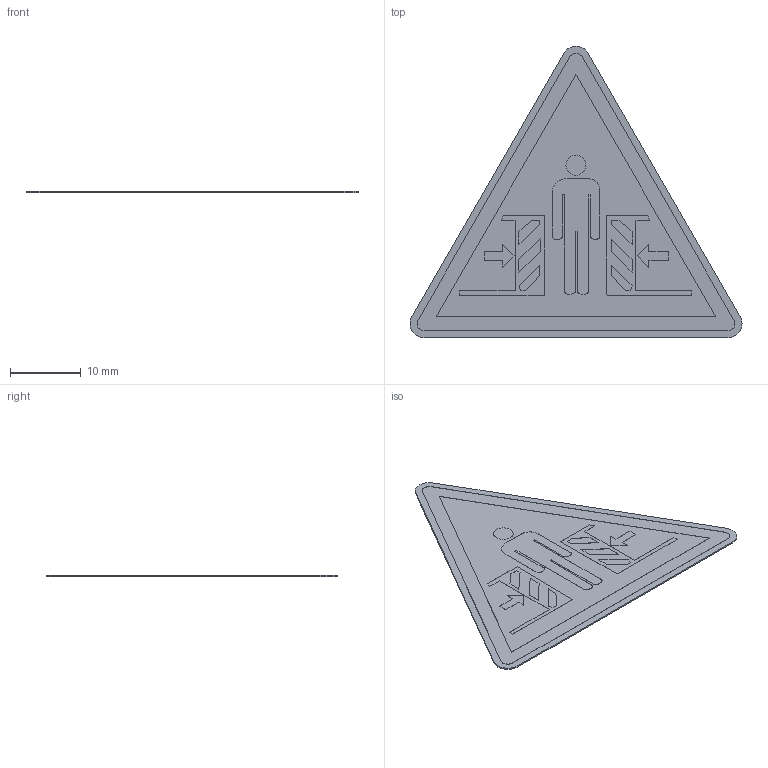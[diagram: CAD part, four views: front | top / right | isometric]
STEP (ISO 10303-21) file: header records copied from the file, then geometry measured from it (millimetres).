
FILE_DESCRIPTION (( 'STEP AP214' ), '1' );
FILE_NAME ('W019_Warnung vor Quetschgefahr.STEP', '2022-02-22T08:18:20', ( '' ), ( '' ), 'SwSTEP 2.0', 'SolidWorks 2021', '' );
FILE_SCHEMA (( 'AUTOMOTIVE_DESIGN' ));
Length unit declared in the file: millimetre
Products named in the file (1): W019_Warnung vor Quetschgefahr
Bounding box: 47.07 x 41.3 x 0.22 mm (x, y, z)
Volume: 221.7 mm3; surface area: 2184.9 mm2
Topology: 1 solids, 1 shells, 109 faces, 279 edges, 186 vertices
Faces by surface type: plane 94, cylinder 10, bspline 5
Entity records: 4440 total; most frequent: CARTESIAN_POINT 740, ORIENTED_EDGE 558, DIRECTION 499, EDGE_CURVE 279, LINE 249, VECTOR 249, VERTEX_POINT 186, AXIS2_PLACEMENT_3D 125
